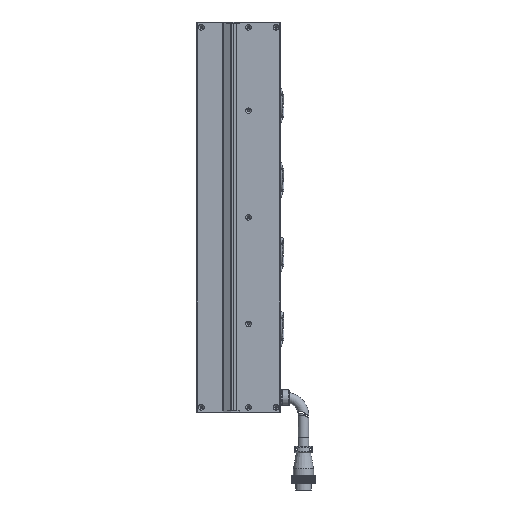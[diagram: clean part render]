
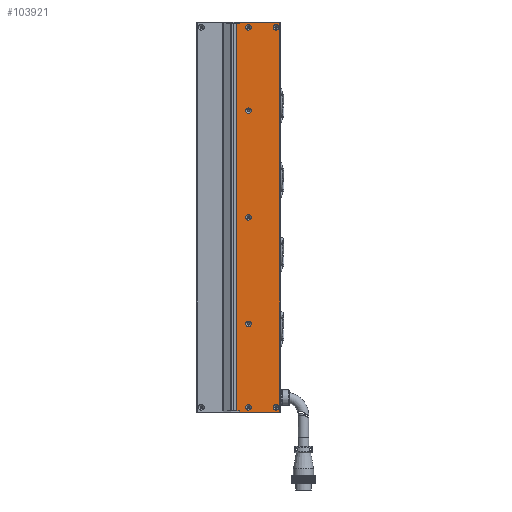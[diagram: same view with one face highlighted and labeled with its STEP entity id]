
A CAD part, left-side view. The second image highlights one B-rep face of the part: STEP entity #103921.
In plain terms, the highlighted planar face has unit normal (-1, 0, 0).
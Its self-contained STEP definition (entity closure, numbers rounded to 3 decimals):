
#408 = DIRECTION ( 'NONE',  ( 1., 0., 0. ) ) ;
#1613 = VECTOR ( 'NONE', #91863, 1000. ) ;
#2123 = EDGE_CURVE ( 'NONE', #85408, #53524, #67633, .T. ) ;
#3276 = CIRCLE ( 'NONE', #74741, 3.15 ) ;
#5511 = DIRECTION ( 'NONE',  ( -1., 0., 0. ) ) ;
#5922 = VECTOR ( 'NONE', #84444, 1000. ) ;
#6368 = DIRECTION ( 'NONE',  ( 0., 0., 1. ) ) ;
#6954 = EDGE_CURVE ( 'NONE', #43502, #106693, #45535, .T. ) ;
#7739 = ORIENTED_EDGE ( 'NONE', *, *, #75337, .T. ) ;
#8956 = DIRECTION ( 'NONE',  ( 0., 0., -1. ) ) ;
#11532 = ORIENTED_EDGE ( 'NONE', *, *, #15795, .F. ) ;
#13193 = FACE_BOUND ( 'NONE', #105871, .T. ) ;
#13572 = DIRECTION ( 'NONE',  ( -1., 0., 0. ) ) ;
#13913 = CARTESIAN_POINT ( 'NONE',  ( -24.998, -67.5, 217.15 ) ) ;
#15795 = EDGE_CURVE ( 'NONE', #51123, #51123, #90336, .T. ) ;
#16376 = AXIS2_PLACEMENT_3D ( 'NONE', #82410, #5511, #83534 ) ;
#16788 = PLANE ( 'NONE',  #64937 ) ;
#17269 = FACE_OUTER_BOUND ( 'NONE', #75336, .T. ) ;
#17291 = CARTESIAN_POINT ( 'NONE',  ( -24.998, -72., -219.5 ) ) ;
#18148 = AXIS2_PLACEMENT_3D ( 'NONE', #49002, #56100, #108268 ) ;
#19424 = EDGE_LOOP ( 'NONE', ( #96279 ) ) ;
#19699 = EDGE_CURVE ( 'NONE', #89986, #89986, #41762, .T. ) ;
#21463 = VECTOR ( 'NONE', #42635, 1000. ) ;
#21569 = VECTOR ( 'NONE', #69636, 1000. ) ;
#21594 = VERTEX_POINT ( 'NONE', #41827 ) ;
#22731 = LINE ( 'NONE', #41117, #82867 ) ;
#24433 = DIRECTION ( 'NONE',  ( 0., 0., -1. ) ) ;
#24515 = ORIENTED_EDGE ( 'NONE', *, *, #74597, .F. ) ;
#24879 = AXIS2_PLACEMENT_3D ( 'NONE', #34393, #94208, #44857 ) ;
#25360 = CARTESIAN_POINT ( 'NONE',  ( -24.998, -72.5, 218. ) ) ;
#25613 = CARTESIAN_POINT ( 'NONE',  ( -24.998, -72.5, 219.5 ) ) ;
#25879 = EDGE_CURVE ( 'NONE', #92536, #92536, #94834, .T. ) ;
#25908 = CARTESIAN_POINT ( 'NONE',  ( -24.998, -26.5, -218. ) ) ;
#28178 = VECTOR ( 'NONE', #6368, 1000. ) ;
#32424 = LINE ( 'NONE', #67206, #5922 ) ;
#33291 = CARTESIAN_POINT ( 'NONE',  ( -24.998, -67.5, -214. ) ) ;
#33678 = CARTESIAN_POINT ( 'NONE',  ( -24.998, -26.5, -211. ) ) ;
#34359 = VECTOR ( 'NONE', #24433, 1000. ) ;
#34393 = CARTESIAN_POINT ( 'NONE',  ( -24.998, -67.5, 214. ) ) ;
#35863 = FACE_BOUND ( 'NONE', #19424, .T. ) ;
#36297 = CARTESIAN_POINT ( 'NONE',  ( -24.998, -36.5, -210.85 ) ) ;
#38655 = VERTEX_POINT ( 'NONE', #97398 ) ;
#39084 = ORIENTED_EDGE ( 'NONE', *, *, #19699, .F. ) ;
#39891 = CARTESIAN_POINT ( 'NONE',  ( -24.998, -72., 219.5 ) ) ;
#39942 = FACE_BOUND ( 'NONE', #88426, .T. ) ;
#41117 = CARTESIAN_POINT ( 'NONE',  ( -24.998, -72.5, -219.5 ) ) ;
#41762 = CIRCLE ( 'NONE', #86937, 3.15 ) ;
#41827 = CARTESIAN_POINT ( 'NONE',  ( -24.998, -36.5, -116.85 ) ) ;
#42422 = DIRECTION ( 'NONE',  ( 0., 0., 1. ) ) ;
#42477 = CARTESIAN_POINT ( 'NONE',  ( -24.998, -23.25, -218. ) ) ;
#42615 = FACE_BOUND ( 'NONE', #103734, .T. ) ;
#42635 = DIRECTION ( 'NONE',  ( 0., 0., -1. ) ) ;
#43376 = EDGE_CURVE ( 'NONE', #103052, #103052, #84331, .T. ) ;
#43502 = VERTEX_POINT ( 'NONE', #83737 ) ;
#44857 = DIRECTION ( 'NONE',  ( 0., 0., 1. ) ) ;
#45535 = LINE ( 'NONE', #95774, #21569 ) ;
#46592 = FACE_BOUND ( 'NONE', #108542, .T. ) ;
#49002 = CARTESIAN_POINT ( 'NONE',  ( -24.998, -36.5, -120. ) ) ;
#49273 = EDGE_CURVE ( 'NONE', #105689, #105689, #66531, .T. ) ;
#49744 = CARTESIAN_POINT ( 'NONE',  ( -24.998, -36.5, 123.15 ) ) ;
#50453 = CARTESIAN_POINT ( 'NONE',  ( -24.998, -36.5, 217.15 ) ) ;
#50666 = CARTESIAN_POINT ( 'NONE',  ( -24.998, -36.5, 214. ) ) ;
#51025 = AXIS2_PLACEMENT_3D ( 'NONE', #99800, #13572, #73295 ) ;
#51123 = VERTEX_POINT ( 'NONE', #36297 ) ;
#53524 = VERTEX_POINT ( 'NONE', #62051 ) ;
#53725 = ORIENTED_EDGE ( 'NONE', *, *, #6954, .T. ) ;
#56100 = DIRECTION ( 'NONE',  ( -1., 0., 0. ) ) ;
#59081 = DIRECTION ( 'NONE',  ( 0., 0., 1. ) ) ;
#59681 = ORIENTED_EDGE ( 'NONE', *, *, #70699, .F. ) ;
#60217 = ORIENTED_EDGE ( 'NONE', *, *, #43376, .F. ) ;
#61301 = FACE_BOUND ( 'NONE', #73557, .T. ) ;
#62051 = CARTESIAN_POINT ( 'NONE',  ( -24.998, -26.5, 219.5 ) ) ;
#62096 = CARTESIAN_POINT ( 'NONE',  ( -24.998, -67.5, -210.85 ) ) ;
#64937 = AXIS2_PLACEMENT_3D ( 'NONE', #25360, #408, #8956 ) ;
#66531 = CIRCLE ( 'NONE', #51025, 3.15 ) ;
#66552 = CARTESIAN_POINT ( 'NONE',  ( -24.998, -26.5, -219.5 ) ) ;
#67206 = CARTESIAN_POINT ( 'NONE',  ( -24.998, -72.5, 218. ) ) ;
#67469 = ORIENTED_EDGE ( 'NONE', *, *, #2123, .T. ) ;
#67633 = LINE ( 'NONE', #25613, #79662 ) ;
#67789 = DIRECTION ( 'NONE',  ( 0., 1., 0. ) ) ;
#68301 = ORIENTED_EDGE ( 'NONE', *, *, #104773, .T. ) ;
#68886 = EDGE_CURVE ( 'NONE', #21594, #21594, #97996, .T. ) ;
#69636 = DIRECTION ( 'NONE',  ( 0., -1., 0. ) ) ;
#70699 = EDGE_CURVE ( 'NONE', #109645, #109645, #3276, .T. ) ;
#71404 = CARTESIAN_POINT ( 'NONE',  ( -24.998, -36.5, 0. ) ) ;
#71421 = EDGE_LOOP ( 'NONE', ( #39084 ) ) ;
#73295 = DIRECTION ( 'NONE',  ( 0., 0., 1. ) ) ;
#73557 = EDGE_LOOP ( 'NONE', ( #86827 ) ) ;
#73579 = ORIENTED_EDGE ( 'NONE', *, *, #86553, .F. ) ;
#74447 = AXIS2_PLACEMENT_3D ( 'NONE', #71404, #80005, #88634 ) ;
#74597 = EDGE_CURVE ( 'NONE', #43502, #38655, #80397, .T. ) ;
#74741 = AXIS2_PLACEMENT_3D ( 'NONE', #50666, #93632, #42422 ) ;
#75336 = EDGE_LOOP ( 'NONE', ( #53725, #68301, #102377, #7739, #67469, #76739, #73579, #24515 ) ) ;
#75337 = EDGE_CURVE ( 'NONE', #104831, #85408, #80287, .T. ) ;
#76246 = EDGE_CURVE ( 'NONE', #53524, #99946, #98897, .T. ) ;
#76739 = ORIENTED_EDGE ( 'NONE', *, *, #76246, .T. ) ;
#79662 = VECTOR ( 'NONE', #67789, 1000. ) ;
#80005 = DIRECTION ( 'NONE',  ( -1., 0., 0. ) ) ;
#80195 = VERTEX_POINT ( 'NONE', #66552 ) ;
#80287 = LINE ( 'NONE', #90775, #28178 ) ;
#80397 = LINE ( 'NONE', #42477, #1613 ) ;
#82410 = CARTESIAN_POINT ( 'NONE',  ( -24.998, -36.5, -214. ) ) ;
#82867 = VECTOR ( 'NONE', #109353, 1000. ) ;
#83534 = DIRECTION ( 'NONE',  ( 0., 0., 1. ) ) ;
#83737 = CARTESIAN_POINT ( 'NONE',  ( -24.998, -23.25, -218. ) ) ;
#84331 = CIRCLE ( 'NONE', #74447, 3.15 ) ;
#84444 = DIRECTION ( 'NONE',  ( 0., -1., 0. ) ) ;
#85408 = VERTEX_POINT ( 'NONE', #39891 ) ;
#86377 = ORIENTED_EDGE ( 'NONE', *, *, #68886, .F. ) ;
#86553 = EDGE_CURVE ( 'NONE', #38655, #99946, #32424, .T. ) ;
#86827 = ORIENTED_EDGE ( 'NONE', *, *, #25879, .F. ) ;
#86937 = AXIS2_PLACEMENT_3D ( 'NONE', #33291, #93106, #59081 ) ;
#88426 = EDGE_LOOP ( 'NONE', ( #86377 ) ) ;
#88634 = DIRECTION ( 'NONE',  ( 0., 0., 1. ) ) ;
#89986 = VERTEX_POINT ( 'NONE', #62096 ) ;
#90336 = CIRCLE ( 'NONE', #16376, 3.15 ) ;
#90775 = CARTESIAN_POINT ( 'NONE',  ( -24.998, -72., 218. ) ) ;
#91863 = DIRECTION ( 'NONE',  ( 0., 0., 1. ) ) ;
#92536 = VERTEX_POINT ( 'NONE', #13913 ) ;
#93106 = DIRECTION ( 'NONE',  ( -1., 0., 0. ) ) ;
#93632 = DIRECTION ( 'NONE',  ( -1., 0., 0. ) ) ;
#94208 = DIRECTION ( 'NONE',  ( -1., 0., 0. ) ) ;
#94834 = CIRCLE ( 'NONE', #24879, 3.15 ) ;
#95774 = CARTESIAN_POINT ( 'NONE',  ( -24.998, -72.5, -218. ) ) ;
#95912 = LINE ( 'NONE', #33678, #34359 ) ;
#96279 = ORIENTED_EDGE ( 'NONE', *, *, #49273, .F. ) ;
#97398 = CARTESIAN_POINT ( 'NONE',  ( -24.998, -23.25, 218. ) ) ;
#97996 = CIRCLE ( 'NONE', #18148, 3.15 ) ;
#98897 = LINE ( 'NONE', #101651, #21463 ) ;
#99100 = CARTESIAN_POINT ( 'NONE',  ( -24.998, -26.5, 218. ) ) ;
#99800 = CARTESIAN_POINT ( 'NONE',  ( -24.998, -36.5, 120. ) ) ;
#99946 = VERTEX_POINT ( 'NONE', #99100 ) ;
#100486 = EDGE_CURVE ( 'NONE', #80195, #104831, #22731, .T. ) ;
#101651 = CARTESIAN_POINT ( 'NONE',  ( -24.998, -26.5, 211. ) ) ;
#102377 = ORIENTED_EDGE ( 'NONE', *, *, #100486, .T. ) ;
#103052 = VERTEX_POINT ( 'NONE', #109012 ) ;
#103734 = EDGE_LOOP ( 'NONE', ( #59681 ) ) ;
#103921 = ADVANCED_FACE ( 'NONE', ( #61301, #42615, #39942, #46592, #35863, #106627, #13193, #17269 ), #16788, .F. ) ;
#104773 = EDGE_CURVE ( 'NONE', #106693, #80195, #95912, .T. ) ;
#104831 = VERTEX_POINT ( 'NONE', #17291 ) ;
#105689 = VERTEX_POINT ( 'NONE', #49744 ) ;
#105871 = EDGE_LOOP ( 'NONE', ( #11532 ) ) ;
#106627 = FACE_BOUND ( 'NONE', #71421, .T. ) ;
#106693 = VERTEX_POINT ( 'NONE', #25908 ) ;
#108268 = DIRECTION ( 'NONE',  ( 0., 0., 1. ) ) ;
#108542 = EDGE_LOOP ( 'NONE', ( #60217 ) ) ;
#109012 = CARTESIAN_POINT ( 'NONE',  ( -24.998, -36.5, 3.15 ) ) ;
#109353 = DIRECTION ( 'NONE',  ( 0., -1., 0. ) ) ;
#109645 = VERTEX_POINT ( 'NONE', #50453 ) ;
